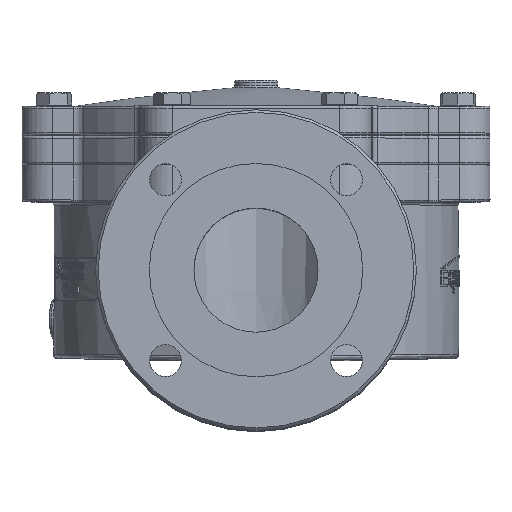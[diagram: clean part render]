
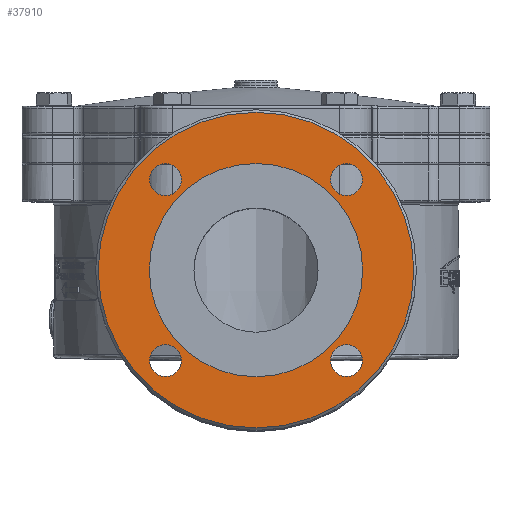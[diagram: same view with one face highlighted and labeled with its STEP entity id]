
A CAD part, top view. The second image highlights one B-rep face of the part: STEP entity #37910.
In plain terms, the highlighted planar face has unit normal (0, 0, 1).
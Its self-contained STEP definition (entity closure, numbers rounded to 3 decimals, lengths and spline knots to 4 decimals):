
#358=PLANE('',#40694);
#1106=FACE_BOUND('',#7258,.T.);
#1107=FACE_BOUND('',#7259,.T.);
#1108=FACE_BOUND('',#7260,.T.);
#1109=FACE_BOUND('',#7261,.T.);
#1110=FACE_BOUND('',#7262,.T.);
#2230=CIRCLE('',#39218,3.6995);
#2234=CIRCLE('',#39226,2.5);
#2284=CIRCLE('',#39305,0.375);
#2286=CIRCLE('',#39308,0.375);
#2288=CIRCLE('',#39311,0.375);
#2290=CIRCLE('',#39314,0.375);
#4967=FACE_OUTER_BOUND('',#7257,.T.);
#7257=EDGE_LOOP('',(#30296));
#7258=EDGE_LOOP('',(#30297));
#7259=EDGE_LOOP('',(#30298));
#7260=EDGE_LOOP('',(#30299));
#7261=EDGE_LOOP('',(#30300));
#7262=EDGE_LOOP('',(#30301));
#15483=VERTEX_POINT('',#53325);
#15487=VERTEX_POINT('',#53341);
#15606=VERTEX_POINT('',#56292);
#15608=VERTEX_POINT('',#56298);
#15610=VERTEX_POINT('',#56304);
#15612=VERTEX_POINT('',#56310);
#19222=EDGE_CURVE('',#15483,#15483,#2230,.T.);
#19230=EDGE_CURVE('',#15487,#15487,#2234,.T.);
#19370=EDGE_CURVE('',#15606,#15606,#2284,.T.);
#19373=EDGE_CURVE('',#15608,#15608,#2286,.T.);
#19376=EDGE_CURVE('',#15610,#15610,#2288,.T.);
#19379=EDGE_CURVE('',#15612,#15612,#2290,.T.);
#30296=ORIENTED_EDGE('',*,*,#19222,.T.);
#30297=ORIENTED_EDGE('',*,*,#19230,.F.);
#30298=ORIENTED_EDGE('',*,*,#19370,.T.);
#30299=ORIENTED_EDGE('',*,*,#19373,.T.);
#30300=ORIENTED_EDGE('',*,*,#19376,.T.);
#30301=ORIENTED_EDGE('',*,*,#19379,.T.);
#37910=ADVANCED_FACE('',(#4967,#1106,#1107,#1108,#1109,#1110),#358,.T.);
#39218=AXIS2_PLACEMENT_3D('',#53327,#42779,#42780);
#39226=AXIS2_PLACEMENT_3D('',#53343,#42799,#42800);
#39305=AXIS2_PLACEMENT_3D('',#56294,#42982,#42983);
#39308=AXIS2_PLACEMENT_3D('',#56300,#42989,#42990);
#39311=AXIS2_PLACEMENT_3D('',#56306,#42996,#42997);
#39314=AXIS2_PLACEMENT_3D('',#56312,#43003,#43004);
#40694=AXIS2_PLACEMENT_3D('',#90267,#46858,#46859);
#42779=DIRECTION('center_axis',(0.,0.,
1.));
#42780=DIRECTION('ref_axis',(1.,0.,0.));
#42799=DIRECTION('center_axis',(0.,0.,
1.));
#42800=DIRECTION('ref_axis',(1.,0.,0.));
#42982=DIRECTION('center_axis',(0.,0.,
-1.));
#42983=DIRECTION('ref_axis',(1.,0.,0.));
#42989=DIRECTION('center_axis',(0.,0.,
-1.));
#42990=DIRECTION('ref_axis',(1.,0.,0.));
#42996=DIRECTION('center_axis',(0.,0.,
-1.));
#42997=DIRECTION('ref_axis',(1.,0.,0.));
#43003=DIRECTION('center_axis',(0.,0.,
-1.));
#43004=DIRECTION('ref_axis',(1.,0.,0.));
#46858=DIRECTION('center_axis',(0.,0.,
1.));
#46859=DIRECTION('ref_axis',(1.,0.,0.));
#53325=CARTESIAN_POINT('',(3.6995,2.135,8.342));
#53327=CARTESIAN_POINT('Origin',(0.,2.135,8.342));
#53341=CARTESIAN_POINT('',(-2.5,2.135,8.342));
#53343=CARTESIAN_POINT('Origin',(0.,2.135,8.342));
#56292=CARTESIAN_POINT('',(-2.4963,4.2563,8.342));
#56294=CARTESIAN_POINT('Origin',(-2.1213,4.2563,8.342));
#56298=CARTESIAN_POINT('',(-2.4963,0.0137,8.342));
#56300=CARTESIAN_POINT('Origin',(-2.1213,0.0137,8.342));
#56304=CARTESIAN_POINT('',(1.7463,0.0137,8.342));
#56306=CARTESIAN_POINT('Origin',(2.1213,0.0137,8.342));
#56310=CARTESIAN_POINT('',(1.7463,4.2563,8.342));
#56312=CARTESIAN_POINT('Origin',(2.1213,4.2563,8.342));
#90267=CARTESIAN_POINT('Origin',(0.,4.635,8.342));
